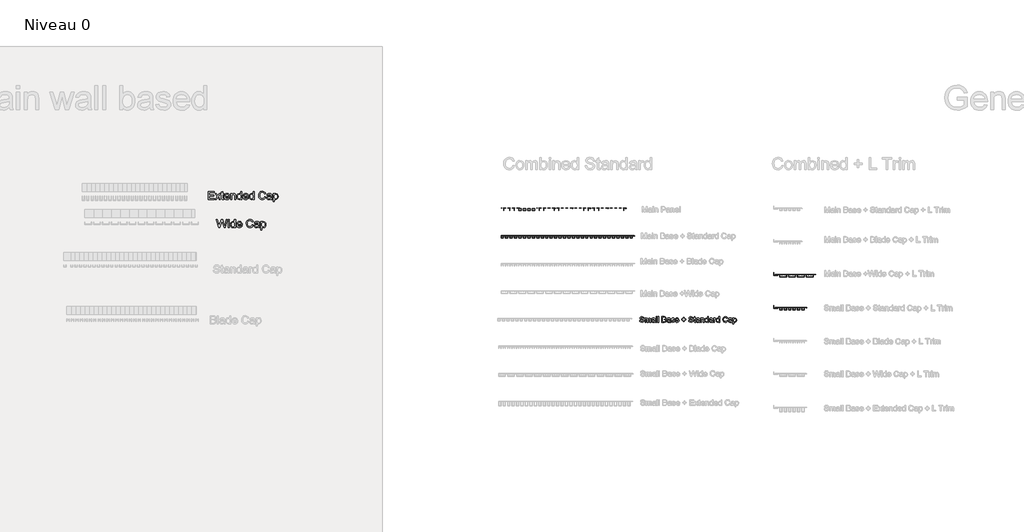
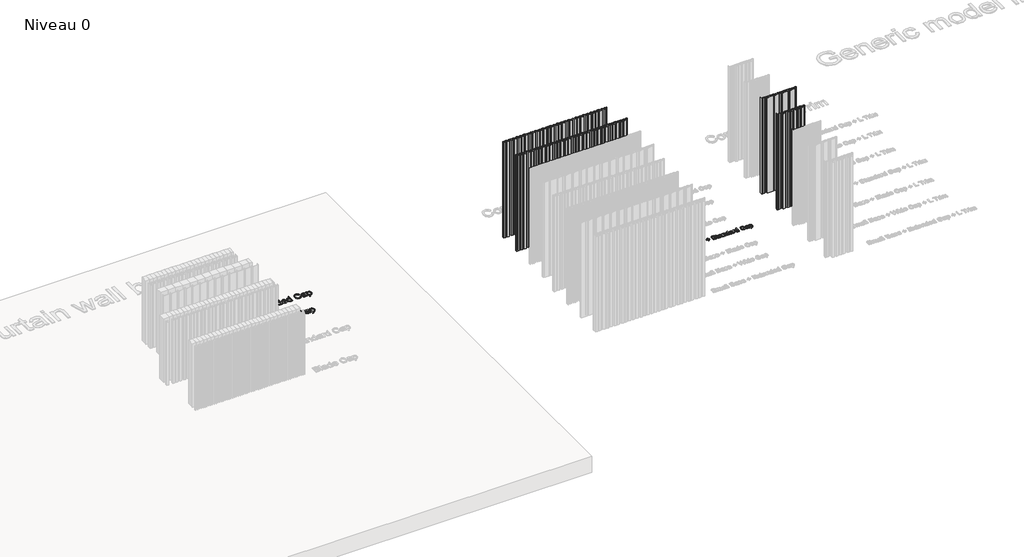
# One storey, part 7 of 25: 7 proxies.
"""IFC4 building model written with IfcOpenShell, lengths in millimetres."""

from ifc_helpers import new_model, si_unit, origin, origin_with_axes, place, context, project, spatial, polyline, outline, extrude, transform, mapped, element, save
from components import generic_models_d0506a42, generic_models_731e9286, a_gen_line_main_base_a_gen_line_main_base_standard_cap_d351ea36, a_gen_line_main_panel_a_gen_line_main_panel_f6c80559

model = new_model("IFC4")

# Units and contexts
model_context = context("Model", 3, world=origin())
ifc_project = project(units=[si_unit("LENGTHUNIT", "METRE", prefix="MILLI")], contexts=[model_context])

# Site, building, storey
site = spatial("IfcSite", under=ifc_project)
building = spatial("IfcBuilding", under=site)
storey = spatial("IfcBuildingStorey", under=building, Name="Niveau 0", Elevation=0.0)

# Proxies
placement = place(None, origin())
generic_models_shape = generic_models_d0506a42(model_context)
element("IfcBuildingElementProxy", 1, Name="A_GEN_LINE_Small Base_Standard Cap_LTrim : A_GEN_LINE_Small Base_Standard Cap_LTrim", ObjectType="A_GEN_LINE_Small Base_Standard Cap_LTrim : A_GEN_LINE_Small Base_Standard Cap_LTrim", at=placement, inside=storey, context=model_context, shape_type="MappedRepresentation", body=[
    mapped(generic_models_shape, transform((-23.2337478, 3341.3297128, 0.0), x_axis=(1.0, 0.0, 0.0), y_axis=(0.0, 1.0, 0.0), z_axis=(0.0, 0.0, 1.0))),
])
generic_models_2_shape = generic_models_731e9286(model_context)
element("IfcBuildingElementProxy", 2, Name="A_GEN_LINE_Main Base_Wide Cap_LTrim : A_GEN_LINE_Main Base_Wide Cap_LTrim", ObjectType="A_GEN_LINE_Main Base_Wide Cap_LTrim : A_GEN_LINE_Main Base_Wide Cap_LTrim", at=placement, inside=storey, context=model_context, shape_type="MappedRepresentation", body=[
    mapped(generic_models_2_shape, transform((-23.2337478, 3751.0816431, 0.0), x_axis=(1.0, 0.0, 0.0), y_axis=(0.0, 1.0, 0.0), z_axis=(0.0, 0.0, 1.0))),
])
element("IfcBuildingElementProxy", 3, Name="100mm Arial", ObjectType="100mm Arial", at=placement, inside=storey, context=model_context, shape_type="SweptSolid", body=[
    extrude(outline(polyline([(-7033.4931897, 4676.6705758), (-7033.4931897, 4777.1268859), (-6961.2902168, 4777.1268859), (-6961.2902168, 4764.5698472), (-7020.9361509, 4764.5698472), (-7020.9361509, 4734.7468801), (-6964.4294765, 4734.7468801), (-6964.4294765, 4722.1898413), (-7020.9361509, 4722.1898413), (-7020.9361509, 4689.2276145), (-6959.7205869, 4689.2276145), (-6959.7205869, 4676.6705758), (-7033.4931897, 4676.6705758)])), origin_with_axes(), (0.0, 0.0, 1.0), 10.0),
    extrude(outline(polyline([(-6950.3028079, 4676.6705758), (-6923.4719477, 4713.7530809), (-6948.733178, 4750.4431785), (-6933.6254908, 4750.4431785), (-6921.436334, 4732.7848428), (-6915.7464258, 4724.4461842), (-6910.8168071, 4731.2642639), (-6896.9353931, 4750.4431785), (-6881.8277058, 4750.4431785), (-6908.3642604, 4713.7530809), (-6882.8087245, 4676.6705758), (-6897.9164118, 4676.6705758), (-6913.2938792, 4698.9642247), (-6916.1143078, 4703.0354521), (-6935.1951206, 4676.6705758), (-6950.3028079, 4676.6705758)])), origin_with_axes(), (0.0, 0.0, 1.0), 10.0),
    extrude(outline(polyline([(-6845.1376082, 4687.1429499), (-6843.5679783, 4676.3026938), (-6852.9612319, 4675.1009459), (-6863.482657, 4677.1856106), (-6868.7311068, 4682.6547896), (-6870.2516857, 4696.9040855), (-6870.2516857, 4737.8861398), (-6879.6694648, 4737.8861398), (-6879.6694648, 4750.4431785), (-6870.2516857, 4750.4431785), (-6870.2516857, 4768.3712944), (-6857.694647, 4775.7534598), (-6857.694647, 4750.4431785), (-6845.1376082, 4750.4431785), (-6845.1376082, 4737.8861398), (-6857.694647, 4737.8861398), (-6857.694647, 4697.2719675), (-6857.0324594, 4690.7972444), (-6854.8864811, 4688.5041133), (-6850.6067872, 4687.6579847), (-6845.1376082, 4687.1429499)])), origin_with_axes(), (0.0, 0.0, 1.0), 10.0),
    extrude(outline(polyline([(-6780.9299373, 4698.6453936), (-6768.6181532, 4697.0757638), (-6773.0541969, 4687.7990061), (-6780.1328596, 4680.8644305), (-6789.6947258, 4676.5418171), (-6801.58038, 4675.1009459), (-6816.3140539, 4677.5872151), (-6827.6509507, 4685.0460225), (-6834.8798319, 4696.9929903), (-6837.289459, 4712.9437405), (-6834.8553064, 4729.4309852), (-6827.5528488, 4741.7611635), (-6816.3692362, 4749.4498972), (-6802.2916185, 4752.0128084), (-6788.6523935, 4749.4560285), (-6777.7538894, 4741.7856889), (-6770.6077816, 4729.4800362), (-6768.2257457, 4713.0173169), (-6768.2993221, 4709.6328025), (-6824.7324202, 4709.6328025), (-6822.5588507, 4700.2334176), (-6817.5096703, 4693.3233674), (-6810.2225412, 4689.0743304), (-6801.3351253, 4687.6579847), (-6789.0233412, 4690.2822096), (-6780.9299373, 4698.6453936)]), holes=[polyline([(-6824.7324202, 4722.1898413), (-6780.7827845, 4722.1898413), (-6785.8105051, 4733.5696577), (-6793.1313568, 4737.9842416), (-6802.3406694, 4739.4557696), (-6817.8039759, 4734.7591428), (-6822.6692153, 4729.268504), (-6824.7324202, 4722.1898413)])]), origin_with_axes(), (0.0, 0.0, 1.0), 10.0),
    extrude(outline(polyline([(-6755.668707, 4676.6705758), (-6755.668707, 4750.4431785), (-6743.1116682, 4750.4431785), (-6743.1116682, 4740.1424827), (-6733.5099481, 4749.045227), (-6720.4010864, 4752.0128084), (-6708.5430234, 4749.6215754), (-6700.4496195, 4743.343056), (-6696.6849604, 4734.109218), (-6696.0227728, 4721.9691121), (-6696.0227728, 4676.6705758), (-6708.5798116, 4676.6705758), (-6708.5798116, 4720.2768549), (-6710.0268141, 4731.3868912), (-6715.1403738, 4737.2607404), (-6723.7610752, 4739.4557696), (-6737.3849718, 4734.5261509), (-6741.6799941, 4727.3831088), (-6743.1116682, 4715.8132201), (-6743.1116682, 4676.6705758), (-6755.668707, 4676.6705758)])), origin_with_axes(), (0.0, 0.0, 1.0), 10.0),
    extrude(outline(polyline([(-6633.237579, 4676.6705758), (-6633.237579, 4688.516376), (-6641.5455807, 4678.4548035), (-6653.0296303, 4675.1009459), (-6668.578776, 4679.9569883), (-6679.5661849, 4693.5073084), (-6683.465734, 4713.4833008), (-6679.8727532, 4733.4715558), (-6669.1060735, 4747.2303424), (-6653.0786812, 4752.0128084), (-6641.5026611, 4748.5915058), (-6633.237579, 4739.7010243), (-6633.237579, 4777.1268859), (-6620.6805402, 4777.1268859), (-6620.6805402, 4676.6705758), (-6633.237579, 4676.6705758)]), holes=[polyline([(-6670.9086953, 4713.5323517), (-6669.4923496, 4702.1739951), (-6665.2433125, 4694.0959196), (-6659.0690264, 4689.2674684), (-6651.8769334, 4687.6579847), (-6644.6879061, 4689.193892), (-6638.6699698, 4693.801614), (-6634.5956767, 4701.5669898), (-6633.237579, 4712.5758585), (-6634.6202021, 4724.6117311), (-6638.7680716, 4732.956521), (-6644.9392921, 4737.8309575), (-6652.3919682, 4739.4557696), (-6659.6576376, 4737.8953368), (-6665.6111945, 4733.2140384), (-6669.5843201, 4725.1727512), (-6670.9086953, 4713.5323517)])]), origin_with_axes(), (0.0, 0.0, 1.0), 10.0),
    extrude(outline(polyline([(-6550.1943499, 4698.6453936), (-6537.8825658, 4697.0757638), (-6542.3186095, 4687.7990061), (-6549.3972723, 4680.8644305), (-6558.9591385, 4676.5418171), (-6570.8447926, 4675.1009459), (-6585.5784665, 4677.5872151), (-6596.9153633, 4685.0460225), (-6604.1442445, 4696.9929903), (-6606.5538716, 4712.9437405), (-6604.119719, 4729.4309852), (-6596.8172614, 4741.7611635), (-6585.6336488, 4749.4498972), (-6571.5560311, 4752.0128084), (-6557.9168061, 4749.4560285), (-6547.018302, 4741.7856889), (-6539.8721943, 4729.4800362), (-6537.4901584, 4713.0173169), (-6537.5637347, 4709.6328025), (-6593.9968328, 4709.6328025), (-6591.8232634, 4700.2334176), (-6586.774083, 4693.3233674), (-6579.4869538, 4689.0743304), (-6570.5995379, 4687.6579847), (-6558.2877538, 4690.2822096), (-6550.1943499, 4698.6453936)]), holes=[polyline([(-6593.9968328, 4722.1898413), (-6550.0471971, 4722.1898413), (-6555.0749177, 4733.5696577), (-6562.3957694, 4737.9842416), (-6571.605082, 4739.4557696), (-6587.0683886, 4734.7591428), (-6591.933628, 4729.268504), (-6593.9968328, 4722.1898413)])]), origin_with_axes(), (0.0, 0.0, 1.0), 10.0),
    extrude(outline(polyline([(-6479.413854, 4676.6705758), (-6479.413854, 4688.516376), (-6487.7218558, 4678.4548035), (-6499.2059054, 4675.1009459), (-6514.755051, 4679.9569883), (-6525.74246, 4693.5073084), (-6529.6420091, 4713.4833008), (-6526.0490283, 4733.4715558), (-6515.2823486, 4747.2303424), (-6499.2549563, 4752.0128084), (-6487.6789362, 4748.5915058), (-6479.413854, 4739.7010243), (-6479.413854, 4777.1268859), (-6466.8568153, 4777.1268859), (-6466.8568153, 4676.6705758), (-6479.413854, 4676.6705758)]), holes=[polyline([(-6517.0849704, 4713.5323517), (-6515.6686247, 4702.1739951), (-6511.4195876, 4694.0959196), (-6505.2453015, 4689.2674684), (-6498.0532085, 4687.6579847), (-6490.8641811, 4689.193892), (-6484.8462448, 4693.801614), (-6480.7719517, 4701.5669898), (-6479.413854, 4712.5758585), (-6480.7964772, 4724.6117311), (-6484.9443467, 4732.956521), (-6491.1155672, 4737.8309575), (-6498.5682433, 4739.4557696), (-6505.8339127, 4737.8953368), (-6511.7874696, 4733.2140384), (-6515.7605952, 4725.1727512), (-6517.0849704, 4713.5323517)])]), origin_with_axes(), (0.0, 0.0, 1.0), 10.0),
    extrude(outline(polyline([(-6336.5775381, 4712.3796548), (-6324.0204993, 4709.1422932), (-6329.8146407, 4694.5097869), (-6338.9074574, 4683.8197492), (-6350.8513595, 4677.2806467), (-6365.1987573, 4675.1009459), (-6379.7638186, 4676.7502835), (-6391.3306417, 4681.6982964), (-6400.1965978, 4689.7733062), (-6406.6590581, 4700.8036347), (-6411.9197707, 4727.6590203), (-6410.4329143, 4742.3068551), (-6405.9723451, 4754.9558643), (-6398.771055, 4765.2044436), (-6389.062036, 4772.6509883), (-6377.5473296, 4777.1851339), (-6364.9289771, 4778.6965158), (-6351.1609935, 4776.7406098), (-6339.7781114, 4770.872892), (-6331.1359502, 4761.4551129), (-6325.5901291, 4748.8490232), (-6338.1471679, 4745.8569163), (-6348.4478638, 4761.2956974), (-6365.4194865, 4766.139477), (-6385.064385, 4760.7683999), (-6396.1621585, 4746.3474257), (-6399.3627319, 4727.6835458), (-6395.5735473, 4706.0520845), (-6383.776798, 4692.2319842), (-6366.4495561, 4687.6579847), (-6355.9679849, 4689.2153518), (-6347.2338532, 4693.8874531), (-6340.6395684, 4701.6252378), (-6336.5775381, 4712.3796548)])), origin_with_axes(), (0.0, 0.0, 1.0), 10.0),
    extrude(outline(polyline([(-6261.2353054, 4686.0883549), (-6273.4121995, 4677.578018), (-6286.8644178, 4675.1009459), (-6297.3582517, 4676.590868), (-6305.099102, 4681.0606342), (-6309.8723709, 4687.8480571), (-6311.4634605, 4696.2909488), (-6309.0599648, 4706.2237627), (-6302.7446572, 4713.4342498), (-6293.9522775, 4717.5545282), (-6283.087496, 4719.4429891), (-6261.3088818, 4723.7594712), (-6261.2353054, 4726.5553743), (-6264.6933962, 4735.8260006), (-6278.5748101, 4739.4557696), (-6291.2790017, 4737.0400112), (-6297.3367919, 4728.4683607), (-6309.8938307, 4730.0379905), (-6304.4614399, 4742.3007237), (-6293.5230819, 4749.4866854), (-6276.9561294, 4752.0128084), (-6261.7380775, 4749.7809909), (-6253.1419015, 4744.1769219), (-6249.2914033, 4735.6543223), (-6248.6782667, 4724.6669134), (-6248.6782667, 4709.0441913), (-6248.0406045, 4687.228789), (-6245.539007, 4676.6705758), (-6258.0960457, 4676.6705758), (-6261.2353054, 4686.0883549)]), holes=[polyline([(-6261.2353054, 4711.2024324), (-6281.4933406, 4707.3519342), (-6292.2968086, 4705.3163205), (-6297.1896391, 4702.0053825), (-6298.9064217, 4697.1738656), (-6295.1662881, 4690.3803115), (-6284.1911419, 4687.6579847), (-6271.4869504, 4690.6623543), (-6263.2954446, 4697.9341551), (-6261.3088818, 4707.6462398), (-6261.2353054, 4711.2024324)])]), origin_with_axes(), (0.0, 0.0, 1.0), 10.0),
    extrude(outline(polyline([(-6231.4123384, 4648.4172385), (-6231.4123384, 4750.4431785), (-6218.8552996, 4750.4431785), (-6218.8552996, 4738.1313944), (-6210.1732845, 4748.5424549), (-6198.4501116, 4752.0128084), (-6182.5330839, 4747.156766), (-6172.1342862, 4733.4715558), (-6168.6271445, 4714.1209629), (-6172.5880073, 4693.7770885), (-6184.0904511, 4679.9202001), (-6199.9706905, 4675.1009459), (-6210.8967858, 4678.3260448), (-6218.8552996, 4686.4807623), (-6218.8552996, 4648.4172385), (-6231.4123384, 4648.4172385)]), holes=[polyline([(-6218.8552996, 4712.968266), (-6217.4972019, 4701.7110769), (-6213.4229088, 4693.8384022), (-6207.4111039, 4689.2030891), (-6200.2404706, 4687.6579847), (-6192.9533415, 4689.2582714), (-6186.7882523, 4694.0591314), (-6182.5852006, 4702.2199803), (-6181.1841833, 4713.9002337), (-6182.551478, 4725.0961091), (-6186.6533623, 4733.0791484), (-6192.6559702, 4737.8616143), (-6199.7254358, 4739.4557696), (-6206.8224927, 4737.7604468), (-6213.0550268, 4732.6744782), (-6217.4052314, 4724.3572794), (-6218.8552996, 4712.968266)])]), origin_with_axes(), (0.0, 0.0, 1.0), 10.0),
])
element("IfcBuildingElementProxy", 4, Name="100mm Arial", ObjectType="100mm Arial", at=placement, inside=storey, context=model_context, shape_type="SweptSolid", body=[
    extrude(outline(polyline([(-6906.5937437, 4329.4187739), (-6933.9886896, 4429.8750841), (-6921.0392434, 4429.8750841), (-6905.1467412, 4363.8525287), (-6900.2416479, 4343.4718661), (-6894.9931981, 4361.4980839), (-6875.0785195, 4429.8750841), (-6856.4146396, 4429.8750841), (-6841.9446144, 4380.3091166), (-6831.1779347, 4343.4718661), (-6826.4199942, 4363.2639175), (-6810.3803392, 4429.8750841), (-6797.430893, 4429.8750841), (-6824.8503644, 4329.4187739), (-6838.2657945, 4329.4187739), (-6862.3498024, 4406.9192476), (-6865.7097913, 4417.7349782), (-6869.4867131, 4404.7119556), (-6891.4370055, 4329.4187739), (-6906.5937437, 4329.4187739)])), origin_with_axes(), (0.0, 0.0, 1.0), 10.0),
    extrude(outline(polyline([(-6786.4434841, 4417.3180453), (-6786.4434841, 4429.8750841), (-6773.8864453, 4429.8750841), (-6773.8864453, 4417.3180453), (-6786.4434841, 4417.3180453)])), origin_with_axes(), (0.0, 0.0, 1.0), 10.0),
    extrude(outline(polyline([(-6786.4434841, 4329.4187739), (-6786.4434841, 4403.1913767), (-6773.8864453, 4403.1913767), (-6773.8864453, 4329.4187739), (-6786.4434841, 4329.4187739)])), origin_with_axes(), (0.0, 0.0, 1.0), 10.0),
    extrude(outline(polyline([(-6709.5316216, 4329.4187739), (-6709.5316216, 4341.2645742), (-6717.8396234, 4331.2030016), (-6729.323673, 4327.8491441), (-6744.8728186, 4332.7051864), (-6755.8602276, 4346.2555066), (-6759.7597767, 4366.2314989), (-6756.1667959, 4386.219754), (-6745.4001162, 4399.9785406), (-6729.3727239, 4404.7610065), (-6717.7967038, 4401.339704), (-6709.5316216, 4392.4492224), (-6709.5316216, 4429.8750841), (-6696.9745829, 4429.8750841), (-6696.9745829, 4329.4187739), (-6709.5316216, 4329.4187739)]), holes=[polyline([(-6747.2027379, 4366.2805498), (-6745.7863923, 4354.9221932), (-6741.5373552, 4346.8441177), (-6735.3630691, 4342.0156666), (-6728.1709761, 4340.4061828), (-6720.9819487, 4341.9420902), (-6714.9640124, 4346.5498122), (-6710.8897193, 4354.3151879), (-6709.5316216, 4365.3240566), (-6710.9142448, 4377.3599292), (-6715.0621143, 4385.7047192), (-6721.2333348, 4390.5791556), (-6728.6860109, 4392.2039678), (-6735.9516803, 4390.643535), (-6741.9052372, 4385.9622366), (-6745.8783628, 4377.9209493), (-6747.2027379, 4366.2805498)])]), origin_with_axes(), (0.0, 0.0, 1.0), 10.0),
    extrude(outline(polyline([(-6626.4883926, 4351.3935918), (-6614.1766085, 4349.8239619), (-6618.6126522, 4340.5472043), (-6625.6913149, 4333.6126287), (-6635.2531811, 4329.2900152), (-6647.1388353, 4327.8491441), (-6661.8725092, 4330.3354132), (-6673.209406, 4337.7942207), (-6680.4382872, 4349.7411885), (-6682.8479143, 4365.6919386), (-6680.4137617, 4382.1791834), (-6673.1113041, 4394.5093616), (-6661.9276915, 4402.1980953), (-6647.8500738, 4404.7610065), (-6634.2108488, 4402.2042267), (-6623.3123447, 4394.5338871), (-6616.1662369, 4382.2282343), (-6613.784201, 4365.765515), (-6613.8577774, 4362.3810007), (-6670.2908755, 4362.3810007), (-6668.117306, 4352.9816157), (-6663.0681256, 4346.0715656), (-6655.7809965, 4341.8225285), (-6646.8935806, 4340.4061828), (-6634.5817965, 4343.0304077), (-6626.4883926, 4351.3935918)]), holes=[polyline([(-6670.2908755, 4374.9380394), (-6626.3412398, 4374.9380394), (-6631.3689604, 4386.3178558), (-6638.6898121, 4390.7324398), (-6647.8991247, 4392.2039678), (-6663.3624312, 4387.5073409), (-6668.2276706, 4382.0167022), (-6670.2908755, 4374.9380394)])]), origin_with_axes(), (0.0, 0.0, 1.0), 10.0),
    extrude(outline(polyline([(-6489.7834432, 4365.1278529), (-6477.2264044, 4361.8904914), (-6483.0205458, 4347.257985), (-6492.1133625, 4336.5679474), (-6504.0572646, 4330.0288449), (-6518.4046624, 4327.8491441), (-6532.9697237, 4329.4984817), (-6544.5365468, 4334.4464945), (-6553.4025029, 4342.5215043), (-6559.8649633, 4353.5518328), (-6565.1256758, 4380.4072184), (-6563.6388194, 4395.0550532), (-6559.1782502, 4407.7040625), (-6551.9769602, 4417.9526417), (-6542.2679412, 4425.3991865), (-6530.7532347, 4429.933332), (-6518.1348823, 4431.4447139), (-6504.3668986, 4429.488808), (-6492.9840165, 4423.6210901), (-6484.3418553, 4414.2033111), (-6478.7960343, 4401.5972214), (-6491.353073, 4398.6051145), (-6501.6537689, 4414.0438955), (-6518.6253916, 4418.8876751), (-6538.2702901, 4413.516598), (-6549.3680637, 4399.0956238), (-6552.568637, 4380.4317439), (-6548.7794525, 4358.8002826), (-6536.9827032, 4344.9801823), (-6519.6554612, 4340.4061828), (-6509.17389, 4341.9635499), (-6500.4397583, 4346.6356513), (-6493.8454735, 4354.3734359), (-6489.7834432, 4365.1278529)])), origin_with_axes(), (0.0, 0.0, 1.0), 10.0),
    extrude(outline(polyline([(-6414.4412106, 4338.836553), (-6426.6181046, 4330.3262162), (-6440.0703229, 4327.8491441), (-6450.5641568, 4329.3390661), (-6458.3050071, 4333.8088324), (-6463.078276, 4340.5962552), (-6464.6693656, 4349.039147), (-6462.2658699, 4358.9719609), (-6455.9505624, 4366.182448), (-6447.1581827, 4370.3027263), (-6436.2934011, 4372.1911872), (-6414.514787, 4376.5076693), (-6414.4412106, 4379.3035725), (-6417.8993013, 4388.5741987), (-6431.7807153, 4392.2039678), (-6444.4849068, 4389.7882093), (-6450.542697, 4381.2165588), (-6463.0997358, 4382.7861887), (-6457.667345, 4395.0489219), (-6446.728987, 4402.2348835), (-6430.1620345, 4404.7610065), (-6414.9439826, 4402.5291891), (-6406.3478067, 4396.92512), (-6402.4973085, 4388.4025205), (-6401.8841718, 4377.4151115), (-6401.8841718, 4361.7923895), (-6401.2465097, 4339.9769872), (-6398.7449121, 4329.4187739), (-6411.3019509, 4329.4187739), (-6414.4412106, 4338.836553)]), holes=[polyline([(-6414.4412106, 4363.9506305), (-6434.6992458, 4360.1001323), (-6445.5027137, 4358.0645186), (-6450.3955442, 4354.7535806), (-6452.1123269, 4349.9220638), (-6448.3721933, 4343.1285096), (-6437.3970471, 4340.4061828), (-6424.6928555, 4343.4105525), (-6416.5013497, 4350.6823532), (-6414.514787, 4360.3944379), (-6414.4412106, 4363.9506305)])]), origin_with_axes(), (0.0, 0.0, 1.0), 10.0),
    extrude(outline(polyline([(-6384.6182435, 4301.1654367), (-6384.6182435, 4403.1913767), (-6372.0612047, 4403.1913767), (-6372.0612047, 4390.8795926), (-6363.3791896, 4401.290653), (-6351.6560167, 4404.7610065), (-6335.7389891, 4399.9049642), (-6325.3401913, 4386.219754), (-6321.8330497, 4366.869161), (-6325.7939125, 4346.5252867), (-6337.2963562, 4332.6683982), (-6353.1765956, 4327.8491441), (-6364.1026909, 4331.0742429), (-6372.0612047, 4339.2289604), (-6372.0612047, 4301.1654367), (-6384.6182435, 4301.1654367)]), holes=[polyline([(-6372.0612047, 4365.7164641), (-6370.703107, 4354.459275), (-6366.6288139, 4346.5866004), (-6360.617009, 4341.9512872), (-6353.4463758, 4340.4061828), (-6346.1592466, 4342.0064695), (-6339.9941575, 4346.8073295), (-6335.7911057, 4354.9681785), (-6334.3900884, 4366.6484318), (-6335.7573832, 4377.8443072), (-6339.8592674, 4385.8273465), (-6345.8618753, 4390.6098124), (-6352.931341, 4392.2039678), (-6360.0283978, 4390.5086449), (-6366.2609319, 4385.4226763), (-6370.6111365, 4377.1054775), (-6372.0612047, 4365.7164641)])]), origin_with_axes(), (0.0, 0.0, 1.0), 10.0),
])
element("IfcBuildingElementProxy", 5, Name="70mm Arial", ObjectType="70mm Arial", at=placement, inside=storey, context=model_context, shape_type="SweptSolid", body=[
    extrude(outline(polyline([(-1699.443513, 3181.4796428), (-1690.6535858, 3181.4796428), (-1687.8208945, 3172.6811318), (-1680.9022604, 3167.118756), (-1670.361215, 3164.9985294), (-1661.1764278, 3166.6037212), (-1655.2449438, 3171.0158526), (-1653.2963955, 3176.913001), (-1654.7556608, 3182.3981215), (-1660.7300644, 3186.3896412), (-1673.528679, 3189.7459512), (-1687.3058597, 3194.0808274), (-1694.7824481, 3200.6217693), (-1697.2460312, 3209.3601929), (-1694.198742, 3219.3089484), (-1685.297224, 3226.3305894), (-1672.2668437, 3228.7255012), (-1658.3609043, 3226.2189985), (-1649.090278, 3218.854001), (-1645.6052093, 3207.8494242), (-1654.3951364, 3207.8494242), (-1659.3738061, 3216.8797009), (-1671.9234872, 3219.935574), (-1684.507504, 3216.9140366), (-1688.4561041, 3209.6177103), (-1685.6577484, 3203.523132), (-1671.3054454, 3198.6131336), (-1655.7513947, 3194.2010022), (-1647.2447367, 3187.0763542), (-1644.5064684, 3177.1361827), (-1647.6567645, 3166.620889), (-1656.7213769, 3158.9468706), (-1670.0178585, 3156.2086023), (-1685.7178357, 3159.1614684), (-1695.6494233, 3168.0544025), (-1699.443513, 3181.4796428)])), origin_with_axes(), (0.0, 0.0, 1.0), 10.0),
    extrude(outline(polyline([(-1632.4203186, 3157.3073432), (-1632.4203186, 3208.9481651), (-1623.6303914, 3208.9481651), (-1623.6303914, 3200.450091), (-1617.5873165, 3207.4116446), (-1608.9862355, 3210.046906), (-1600.1791405, 3207.3601412), (-1595.3378134, 3199.8320493), (-1588.4792668, 3207.4931918), (-1579.8180983, 3210.046906), (-1568.3242385, 3205.797869), (-1564.2983832, 3192.7074013), (-1564.2983832, 3157.3073432), (-1573.0883104, 3157.3073432), (-1573.0883104, 3188.9304795), (-1573.9037821, 3196.2697253), (-1576.8566483, 3199.8835528), (-1581.8782375, 3201.2569789), (-1590.5222381, 3197.7375744), (-1593.9643873, 3186.4583125), (-1593.9643873, 3157.3073432), (-1602.7543145, 3157.3073432), (-1602.7543145, 3189.9090456), (-1604.7887019, 3198.4242875), (-1611.4584025, 3201.2569789), (-1617.9650087, 3199.368518), (-1622.291301, 3193.8404778), (-1623.6303914, 3183.3509359), (-1623.6303914, 3157.3073432), (-1632.4203186, 3157.3073432)])), origin_with_axes(), (0.0, 0.0, 1.0), 10.0),
    extrude(outline(polyline([(-1518.1512658, 3163.8997885), (-1526.6750916, 3157.9425528), (-1536.0916444, 3156.2086023), (-1548.8559234, 3160.3803841), (-1553.3109743, 3171.0416043), (-1551.6285273, 3177.994574), (-1547.207812, 3183.041915), (-1541.0531462, 3185.9261099), (-1533.4477991, 3187.2480325), (-1518.2027692, 3190.2695699), (-1518.1512658, 3192.2267022), (-1520.5719293, 3198.7161406), (-1530.2889191, 3201.2569789), (-1539.1818532, 3199.565948), (-1543.4223063, 3193.5657926), (-1552.2122334, 3194.6645335), (-1548.4095599, 3203.2484467), (-1540.7527093, 3208.2786199), (-1529.1558425, 3210.046906), (-1518.5032062, 3208.4846338), (-1512.485883, 3204.5617855), (-1509.7905343, 3198.5959658), (-1509.3613386, 3190.9047795), (-1509.3613386, 3179.9688741), (-1508.9149751, 3164.6980925), (-1507.1638568, 3157.3073432), (-1515.953784, 3157.3073432), (-1518.1512658, 3163.8997885)]), holes=[polyline([(-1518.1512658, 3181.4796428), (-1532.3318904, 3178.7842941), (-1539.8943179, 3177.3593645), (-1543.3192993, 3175.0417079), (-1544.5210472, 3171.6596461), (-1541.9029536, 3166.9041582), (-1534.2203513, 3164.9985294), (-1525.3274172, 3167.1015882), (-1519.5933632, 3172.1918487), (-1518.2027692, 3178.990308), (-1518.1512658, 3181.4796428)])]), origin_with_axes(), (0.0, 0.0, 1.0), 10.0),
    extrude(outline(polyline([(-1497.2751888, 3157.3073432), (-1497.2751888, 3227.6267603), (-1488.4852617, 3227.6267603), (-1488.4852617, 3157.3073432), (-1497.2751888, 3157.3073432)])), origin_with_axes(), (0.0, 0.0, 1.0), 10.0),
    extrude(outline(polyline([(-1475.300371, 3157.3073432), (-1475.300371, 3227.6267603), (-1466.5104438, 3227.6267603), (-1466.5104438, 3157.3073432), (-1475.300371, 3157.3073432)])), origin_with_axes(), (0.0, 0.0, 1.0), 10.0),
    extrude(outline(polyline([(-1424.7582899, 3157.3073432), (-1424.7582899, 3227.6267603), (-1397.9249772, 3227.6267603), (-1384.783006, 3225.5580372), (-1377.0231485, 3219.1973575), (-1374.2162089, 3210.2014164), (-1376.576785, 3201.9866115), (-1383.7100169, 3195.7632744), (-1375.0488485, 3189.2051647), (-1372.0187271, 3178.2692593), (-1374.0874502, 3168.8183708), (-1379.2120464, 3162.0885828), (-1386.860313, 3158.5176749), (-1398.1309911, 3157.3073432), (-1424.7582899, 3157.3073432)]), holes=[polyline([(-1415.9683628, 3166.0972703), (-1397.942145, 3166.0972703), (-1391.418371, 3166.4406268), (-1385.8989148, 3168.3548395), (-1382.2421677, 3172.26052), (-1380.8086542, 3178.1834201), (-1382.4911012, 3185.0162151), (-1387.9418861, 3189.0935738), (-1398.8005363, 3190.2695699), (-1415.9683628, 3190.2695699), (-1415.9683628, 3166.0972703)]), polyline([(-1415.9683628, 3199.0594971), (-1399.9164451, 3199.0594971), (-1390.5428118, 3199.8148814), (-1384.9031808, 3203.0681846), (-1383.006136, 3208.7936547), (-1384.7744221, 3214.5277087), (-1389.8389309, 3217.9183544), (-1401.1353607, 3218.8368331), (-1415.9683628, 3218.8368331), (-1415.9683628, 3199.0594971)])]), origin_with_axes(), (0.0, 0.0, 1.0), 10.0),
    extrude(outline(polyline([(-1328.0690914, 3163.8997885), (-1336.5929172, 3157.9425528), (-1346.00947, 3156.2086023), (-1358.773749, 3160.3803841), (-1363.2288, 3171.0416043), (-1361.546353, 3177.994574), (-1357.1256377, 3183.041915), (-1350.9709719, 3185.9261099), (-1343.3656248, 3187.2480325), (-1328.1205949, 3190.2695699), (-1328.0690914, 3192.2267022), (-1330.4897549, 3198.7161406), (-1340.2067447, 3201.2569789), (-1349.0996788, 3199.565948), (-1353.3401319, 3193.5657926), (-1362.1300591, 3194.6645335), (-1358.3273855, 3203.2484467), (-1350.6705349, 3208.2786199), (-1339.0736681, 3210.046906), (-1328.4210318, 3208.4846338), (-1322.4037087, 3204.5617855), (-1319.7083599, 3198.5959658), (-1319.2791643, 3190.9047795), (-1319.2791643, 3179.9688741), (-1318.8328008, 3164.6980925), (-1317.0816825, 3157.3073432), (-1325.8716096, 3157.3073432), (-1328.0690914, 3163.8997885)]), holes=[polyline([(-1328.0690914, 3181.4796428), (-1342.249716, 3178.7842941), (-1349.8121436, 3177.3593645), (-1353.237125, 3175.0417079), (-1354.4388728, 3171.6596461), (-1351.8207793, 3166.9041582), (-1344.1381769, 3164.9985294), (-1335.2452429, 3167.1015882), (-1329.5111888, 3172.1918487), (-1328.1205949, 3178.990308), (-1328.0690914, 3181.4796428)])]), origin_with_axes(), (0.0, 0.0, 1.0), 10.0),
    extrude(outline(polyline([(-1310.4892371, 3172.6897157), (-1301.69931, 3173.7884566), (-1297.6305351, 3167.2646825), (-1288.3084054, 3164.9985294), (-1279.3468, 3167.0758364), (-1276.4282695, 3171.9514991), (-1279.3639678, 3175.9000992), (-1288.4114123, 3178.4066019), (-1301.6478065, 3182.7071424), (-1307.4247801, 3187.7287316), (-1309.3904962, 3194.819044), (-1307.8110562, 3201.3685697), (-1303.5019318, 3206.3729911), (-1297.9138043, 3208.9739169), (-1290.3513767, 3210.046906), (-1279.6558208, 3208.3215394), (-1272.8573616, 3203.6518907), (-1269.8358241, 3195.7632744), (-1278.6257512, 3194.6645335), (-1281.9305578, 3199.5144445), (-1289.6646636, 3201.2569789), (-1298.0768986, 3199.5916997), (-1300.6005691, 3195.7117709), (-1299.5533317, 3193.1537648), (-1296.2742768, 3191.2138004), (-1288.7032654, 3189.3425073), (-1275.8016438, 3185.2050611), (-1269.8100724, 3180.5182445), (-1267.6383423, 3172.8785618), (-1270.1877646, 3164.4663268), (-1277.5441782, 3158.3631645), (-1288.4285801, 3156.2086023), (-1303.7594492, 3160.3632163), (-1310.4892371, 3172.6897157)])), origin_with_axes(), (0.0, 0.0, 1.0), 10.0),
    extrude(outline(polyline([(-1221.5942318, 3172.6897157), (-1212.9759829, 3171.5909748), (-1221.0362774, 3160.2430415), (-1236.0495417, 3156.2086023), (-1246.3631134, 3157.9489907), (-1254.2989412, 3163.1701559), (-1259.359158, 3171.5330334), (-1261.045897, 3182.6985585), (-1259.3419902, 3194.2396298), (-1254.2302699, 3202.8707546), (-1246.401741, 3208.2528681), (-1236.5474086, 3210.046906), (-1226.9999512, 3208.2571601), (-1219.3709983, 3202.8879224), (-1214.3687229, 3194.2739655), (-1212.7012977, 3182.750062), (-1212.7528012, 3180.3809019), (-1252.2559698, 3180.3809019), (-1247.2000449, 3168.9642973), (-1235.8778634, 3164.9985294), (-1227.2596145, 3166.8354869), (-1221.5942318, 3172.6897157)]), holes=[polyline([(-1252.2559698, 3189.1708291), (-1221.4912248, 3189.1708291), (-1225.0106293, 3197.1367005), (-1236.5817443, 3201.2569789), (-1247.4060589, 3197.9693401), (-1252.2559698, 3189.1708291)])]), origin_with_axes(), (0.0, 0.0, 1.0), 10.0),
    extrude(outline(polyline([(-1158.862994, 3168.2947521), (-1158.862994, 3186.9733473), (-1177.5415892, 3186.9733473), (-1177.5415892, 3195.7632744), (-1158.862994, 3195.7632744), (-1158.862994, 3214.4418696), (-1150.0730669, 3214.4418696), (-1150.0730669, 3195.7632744), (-1131.3944717, 3195.7632744), (-1131.3944717, 3186.9733473), (-1150.0730669, 3186.9733473), (-1150.0730669, 3168.2947521), (-1158.862994, 3168.2947521)])), origin_with_axes(), (0.0, 0.0, 1.0), 10.0),
    extrude(outline(polyline([(-1094.0372813, 3181.4796428), (-1085.2473542, 3181.4796428), (-1082.4146628, 3172.6811318), (-1075.4960288, 3167.118756), (-1064.9549834, 3164.9985294), (-1055.7701962, 3166.6037212), (-1049.8387122, 3171.0158526), (-1047.8901639, 3176.913001), (-1049.3494291, 3182.3981215), (-1055.3238327, 3186.3896412), (-1068.1224473, 3189.7459512), (-1081.8996281, 3194.0808274), (-1089.3762165, 3200.6217693), (-1091.8397996, 3209.3601929), (-1088.7925104, 3219.3089484), (-1079.8909924, 3226.3305894), (-1066.8606121, 3228.7255012), (-1052.9546727, 3226.2189985), (-1043.6840464, 3218.854001), (-1040.1989776, 3207.8494242), (-1048.9889048, 3207.8494242), (-1053.9675744, 3216.8797009), (-1066.5172556, 3219.935574), (-1079.1012723, 3216.9140366), (-1083.0498724, 3209.6177103), (-1080.2515167, 3203.523132), (-1065.8992138, 3198.6131336), (-1050.3451631, 3194.2010022), (-1041.8385051, 3187.0763542), (-1039.1002367, 3177.1361827), (-1042.2505329, 3166.620889), (-1051.3151452, 3158.9468706), (-1064.6116268, 3156.2086023), (-1080.3116041, 3159.1614684), (-1090.2431917, 3168.0544025), (-1094.0372813, 3181.4796428)])), origin_with_axes(), (0.0, 0.0, 1.0), 10.0),
    extrude(outline(polyline([(-1008.3354918, 3164.6380051), (-1007.2367509, 3157.0498258), (-1013.8120284, 3156.2086023), (-1021.1770259, 3157.6678675), (-1024.8509408, 3161.4962928), (-1025.915346, 3171.4708), (-1025.915346, 3200.158238), (-1032.5077914, 3200.158238), (-1032.5077914, 3208.9481651), (-1025.915346, 3208.9481651), (-1025.915346, 3221.4978462), (-1017.1254189, 3226.665362), (-1017.1254189, 3208.9481651), (-1008.3354918, 3208.9481651), (-1008.3354918, 3200.158238), (-1017.1254189, 3200.158238), (-1017.1254189, 3171.7283174), (-1016.6618876, 3167.1960112), (-1015.1597028, 3165.5908194), (-1012.163917, 3164.9985294), (-1008.3354918, 3164.6380051)])), origin_with_axes(), (0.0, 0.0, 1.0), 10.0),
    extrude(outline(polyline([(-966.5833378, 3163.8997885), (-975.1071637, 3157.9425528), (-984.5237165, 3156.2086023), (-997.2879954, 3160.3803841), (-1001.7430464, 3171.0416043), (-1000.0605994, 3177.994574), (-995.6398841, 3183.041915), (-989.4852183, 3185.9261099), (-981.8798712, 3187.2480325), (-966.6348413, 3190.2695699), (-966.5833378, 3192.2267022), (-969.0040014, 3198.7161406), (-978.7209911, 3201.2569789), (-987.6139252, 3199.565948), (-991.8543784, 3193.5657926), (-1000.6443055, 3194.6645335), (-996.8416319, 3203.2484467), (-989.1847814, 3208.2786199), (-977.5879146, 3210.046906), (-966.9352783, 3208.4846338), (-960.9179551, 3204.5617855), (-958.2226064, 3198.5959658), (-957.7934107, 3190.9047795), (-957.7934107, 3179.9688741), (-957.3470472, 3164.6980925), (-955.5959289, 3157.3073432), (-964.3858561, 3157.3073432), (-966.5833378, 3163.8997885)]), holes=[polyline([(-966.5833378, 3181.4796428), (-980.7639625, 3178.7842941), (-988.32639, 3177.3593645), (-991.7513714, 3175.0417079), (-992.9531193, 3171.6596461), (-990.3350257, 3166.9041582), (-982.6524234, 3164.9985294), (-973.7594893, 3167.1015882), (-968.0254353, 3172.1918487), (-966.6348413, 3178.990308), (-966.5833378, 3181.4796428)])]), origin_with_axes(), (0.0, 0.0, 1.0), 10.0),
    extrude(outline(polyline([(-945.7072609, 3157.3073432), (-945.7072609, 3208.9481651), (-936.9173338, 3208.9481651), (-936.9173338, 3201.737678), (-930.1961297, 3207.969599), (-921.0199265, 3210.046906), (-912.7192824, 3208.3730429), (-907.0538997, 3203.9780794), (-904.4186383, 3197.5143927), (-903.955107, 3189.0163186), (-903.955107, 3157.3073432), (-912.7450341, 3157.3073432), (-912.7450341, 3187.8317386), (-913.7579359, 3195.608764), (-917.3374277, 3199.7204584), (-923.3719187, 3201.2569789), (-932.9086463, 3197.8062458), (-936.9173338, 3184.7071942), (-936.9173338, 3157.3073432), (-945.7072609, 3157.3073432)])), origin_with_axes(), (0.0, 0.0, 1.0), 10.0),
    extrude(outline(polyline([(-860.0054713, 3157.3073432), (-860.0054713, 3165.5994033), (-865.8210725, 3158.5563025), (-873.8599072, 3156.2086023), (-884.7443092, 3159.6078319), (-892.4354954, 3169.093056), (-895.1651798, 3183.0762507), (-892.6500933, 3197.0680292), (-885.1134175, 3206.6991798), (-873.8942429, 3210.046906), (-865.7910288, 3207.6519942), (-860.0054713, 3201.4286571), (-860.0054713, 3227.6267603), (-851.2155442, 3227.6267603), (-851.2155442, 3157.3073432), (-860.0054713, 3157.3073432)]), holes=[polyline([(-886.3752527, 3183.1105863), (-882.4094848, 3169.5050839), (-873.0530194, 3164.9985294), (-863.8081449, 3169.2990699), (-860.0054713, 3182.4410411), (-863.8768162, 3196.7075049), (-873.4135437, 3201.2569789), (-882.6670022, 3196.887767), (-886.3752527, 3183.1105863)])]), origin_with_axes(), (0.0, 0.0, 1.0), 10.0),
    extrude(outline(polyline([(-805.0684267, 3163.8997885), (-813.5922525, 3157.9425528), (-823.0088053, 3156.2086023), (-835.7730843, 3160.3803841), (-840.2281352, 3171.0416043), (-838.5456882, 3177.994574), (-834.1249729, 3183.041915), (-827.9703072, 3185.9261099), (-820.36496, 3187.2480325), (-805.1199302, 3190.2695699), (-805.0684267, 3192.2267022), (-807.4890902, 3198.7161406), (-817.20608, 3201.2569789), (-826.0990141, 3199.565948), (-830.3394672, 3193.5657926), (-839.1293943, 3194.6645335), (-835.3267208, 3203.2484467), (-827.6698702, 3208.2786199), (-816.0730034, 3210.046906), (-805.4203671, 3208.4846338), (-799.403044, 3204.5617855), (-796.7076952, 3198.5959658), (-796.2784995, 3190.9047795), (-796.2784995, 3179.9688741), (-795.8321361, 3164.6980925), (-794.0810178, 3157.3073432), (-802.8709449, 3157.3073432), (-805.0684267, 3163.8997885)]), holes=[polyline([(-805.0684267, 3181.4796428), (-819.2490513, 3178.7842941), (-826.8114789, 3177.3593645), (-830.2364602, 3175.0417079), (-831.4382081, 3171.6596461), (-828.8201146, 3166.9041582), (-821.1375122, 3164.9985294), (-812.2445781, 3167.1015882), (-806.5105241, 3172.1918487), (-805.1199302, 3178.990308), (-805.0684267, 3181.4796428)])]), origin_with_axes(), (0.0, 0.0, 1.0), 10.0),
    extrude(outline(polyline([(-784.1923497, 3157.3073432), (-784.1923497, 3208.9481651), (-776.5011635, 3208.9481651), (-776.5011635, 3201.3084823), (-771.0417947, 3208.3472912), (-765.5480902, 3210.046906), (-756.7238274, 3207.3343894), (-759.6595257, 3199.4543571), (-765.8399433, 3201.2569789), (-770.810029, 3199.5230284), (-773.977493, 3194.716037), (-775.4024226, 3184.4496768), (-775.4024226, 3157.3073432), (-784.1923497, 3157.3073432)])), origin_with_axes(), (0.0, 0.0, 1.0), 10.0),
    extrude(outline(polyline([(-719.3666371, 3157.3073432), (-719.3666371, 3165.5994033), (-725.1822383, 3158.5563025), (-733.221073, 3156.2086023), (-744.105475, 3159.6078319), (-751.7966612, 3169.093056), (-754.5263456, 3183.0762507), (-752.0112591, 3197.0680292), (-744.4745833, 3206.6991798), (-733.2554087, 3210.046906), (-725.1521946, 3207.6519942), (-719.3666371, 3201.4286571), (-719.3666371, 3227.6267603), (-710.5767099, 3227.6267603), (-710.5767099, 3157.3073432), (-719.3666371, 3157.3073432)]), holes=[polyline([(-745.7364185, 3183.1105863), (-741.7706506, 3169.5050839), (-732.4141852, 3164.9985294), (-723.1693106, 3169.2990699), (-719.3666371, 3182.4410411), (-723.2379819, 3196.7075049), (-732.7747095, 3201.2569789), (-742.028168, 3196.887767), (-745.7364185, 3183.1105863)])]), origin_with_axes(), (0.0, 0.0, 1.0), 10.0),
    extrude(outline(polyline([(-619.3812159, 3182.3036985), (-610.5912888, 3180.0375454), (-614.6471877, 3169.7947909), (-621.0121594, 3162.3117646), (-629.3728909, 3157.7343929), (-639.4160693, 3156.2086023), (-657.7083884, 3160.8267476), (-668.4382799, 3174.2004844), (-672.1207787, 3192.9992543), (-667.9575808, 3212.1070452), (-656.1203645, 3224.493632), (-639.2272233, 3228.7255012), (-621.6216172, 3223.2489645), (-611.6900296, 3207.8322564), (-620.4799568, 3205.7377816), (-627.6904439, 3216.5449283), (-639.5705798, 3219.935574), (-653.3220088, 3216.17582), (-661.0904502, 3206.0811381), (-663.3308516, 3193.0164222), (-660.6784224, 3177.8743993), (-652.4206979, 3168.2003291), (-640.2916285, 3164.9985294), (-626.8406365, 3169.3591573), (-619.3812159, 3182.3036985)])), origin_with_axes(), (0.0, 0.0, 1.0), 10.0),
    extrude(outline(polyline([(-566.6416531, 3163.8997885), (-575.1654789, 3157.9425528), (-584.5820317, 3156.2086023), (-597.3463107, 3160.3803841), (-601.8013616, 3171.0416043), (-600.1189146, 3177.994574), (-595.6981993, 3183.041915), (-589.5435335, 3185.9261099), (-581.9381864, 3187.2480325), (-566.6931565, 3190.2695699), (-566.6416531, 3192.2267022), (-569.0623166, 3198.7161406), (-578.7793064, 3201.2569789), (-587.6722405, 3199.565948), (-591.9126936, 3193.5657926), (-600.7026207, 3194.6645335), (-596.8999472, 3203.2484467), (-589.2430966, 3208.2786199), (-577.6462298, 3210.046906), (-566.9935935, 3208.4846338), (-560.9762703, 3204.5617855), (-558.2809216, 3198.5959658), (-557.8517259, 3190.9047795), (-557.8517259, 3179.9688741), (-557.4053624, 3164.6980925), (-555.6542441, 3157.3073432), (-564.4441713, 3157.3073432), (-566.6416531, 3163.8997885)]), holes=[polyline([(-566.6416531, 3181.4796428), (-580.8222777, 3178.7842941), (-588.3847053, 3177.3593645), (-591.8096866, 3175.0417079), (-593.0114345, 3171.6596461), (-590.3933409, 3166.9041582), (-582.7107386, 3164.9985294), (-573.8178045, 3167.1015882), (-568.0837505, 3172.1918487), (-566.6931565, 3178.990308), (-566.6416531, 3181.4796428)])]), origin_with_axes(), (0.0, 0.0, 1.0), 10.0),
    extrude(outline(polyline([(-545.7655761, 3137.5300071), (-545.7655761, 3208.9481651), (-536.975649, 3208.9481651), (-536.975649, 3200.3299162), (-530.8982384, 3207.6176586), (-522.6920174, 3210.046906), (-511.550098, 3206.6476764), (-504.2709396, 3197.0680292), (-501.8159404, 3183.5226142), (-504.5885444, 3169.2819021), (-512.640255, 3159.5820802), (-523.7564226, 3156.2086023), (-531.4046893, 3158.4661715), (-536.975649, 3164.1744738), (-536.975649, 3137.5300071), (-545.7655761, 3137.5300071)]), holes=[polyline([(-536.975649, 3182.7157263), (-533.1729754, 3169.3248217), (-523.9452687, 3164.9985294), (-514.5287159, 3169.4793321), (-510.6058676, 3183.3681037), (-514.4342929, 3196.793344), (-523.5847443, 3201.2569789), (-532.915458, 3196.5100749), (-536.975649, 3182.7157263)])]), origin_with_axes(), (0.0, 0.0, 1.0), 10.0),
])
a_gen_line_main_base_a_gen_line_main_base_standard_cap_shape = a_gen_line_main_base_a_gen_line_main_base_standard_cap_d351ea36(model_context)
element("IfcBuildingElementProxy", 6, Name="A_GEN_LINE_Main Base : A_GEN_LINE_Main Base_Standard Cap", ObjectType="A_GEN_LINE_Main Base : A_GEN_LINE_Main Base_Standard Cap", at=placement, inside=storey, context=model_context, shape_type="MappedRepresentation", body=[
    mapped(a_gen_line_main_base_a_gen_line_main_base_standard_cap_shape, transform((-3413.0805557, 4229.1255619, 0.0), x_axis=(1.0, 0.0, 0.0), y_axis=(0.0, 1.0, 0.0), z_axis=(0.0, 0.0, 1.0))),
])
a_gen_line_main_panel_a_gen_line_main_panel_shape = a_gen_line_main_panel_a_gen_line_main_panel_f6c80559(model_context)
element("IfcBuildingElementProxy", 7, Name="A_GEN_LINE_Main Panel : A_GEN_LINE_Main Panel", ObjectType="A_GEN_LINE_Main Panel : A_GEN_LINE_Main Panel", at=placement, inside=storey, context=model_context, shape_type="MappedRepresentation", body=[
    mapped(a_gen_line_main_panel_a_gen_line_main_panel_shape, transform((-3413.0805557, 4570.5855038, 0.0), x_axis=(1.0, 0.0, 0.0), y_axis=(0.0, 1.0, 0.0), z_axis=(0.0, 0.0, 1.0))),
])

save(model, "model.ifc")
